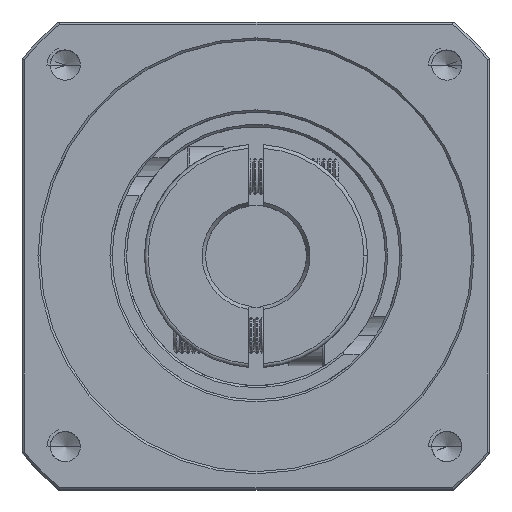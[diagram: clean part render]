
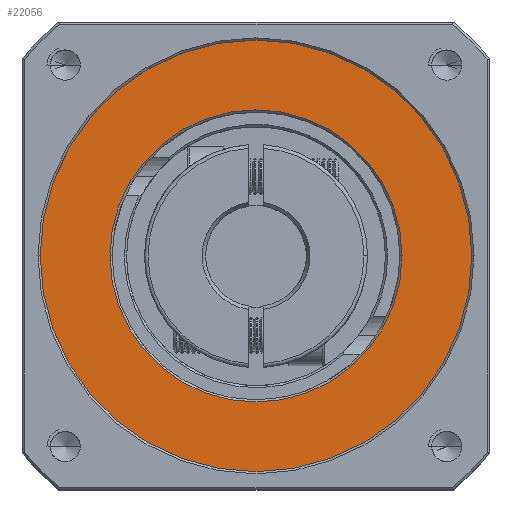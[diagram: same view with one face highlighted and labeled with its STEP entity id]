
A CAD part, top view. The second image highlights one B-rep face of the part: STEP entity #22056.
In plain terms, the highlighted planar face has unit normal (0, 0, 1).
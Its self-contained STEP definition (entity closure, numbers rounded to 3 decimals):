
#2425 = DIRECTION ( 'NONE',  ( 0., 0., 1. ) ) ;
#2940 = ORIENTED_EDGE ( 'NONE', *, *, #26909, .T. ) ;
#11201 = FACE_OUTER_BOUND ( 'NONE', #100078, .T. ) ;
#17317 = DIRECTION ( 'NONE',  ( 0., 0., -1. ) ) ;
#18704 = PLANE ( 'NONE',  #59666 ) ;
#20255 = AXIS2_PLACEMENT_3D ( 'NONE', #30855, #88187, #39108 ) ;
#21926 = CARTESIAN_POINT ( 'NONE',  ( -64.661, 33.999, 21.993 ) ) ;
#22056 = ADVANCED_FACE ( 'NONE', ( #93520, #11201 ), #18704, .T. ) ;
#22060 = VERTEX_POINT ( 'NONE', #51480 ) ;
#23340 = CIRCLE ( 'NONE', #63052, 30. ) ;
#26909 = EDGE_CURVE ( 'NONE', #99417, #27796, #75511, .T. ) ;
#27796 = VERTEX_POINT ( 'NONE', #63081 ) ;
#30283 = DIRECTION ( 'NONE',  ( 1., 0., 0. ) ) ;
#30855 = CARTESIAN_POINT ( 'NONE',  ( -64.661, 33.999, 21.993 ) ) ;
#36238 = CARTESIAN_POINT ( 'NONE',  ( -44.361, 33.999, 21.993 ) ) ;
#39108 = DIRECTION ( 'NONE',  ( 1., 0., 0. ) ) ;
#40092 = CIRCLE ( 'NONE', #48338, 20.3 ) ;
#41582 = EDGE_LOOP ( 'NONE', ( #50528, #85333 ) ) ;
#42446 = CARTESIAN_POINT ( 'NONE',  ( -64.661, 33.999, 21.993 ) ) ;
#47898 = CARTESIAN_POINT ( 'NONE',  ( -94.661, 33.999, 21.993 ) ) ;
#48338 = AXIS2_PLACEMENT_3D ( 'NONE', #66680, #17317, #74905 ) ;
#49633 = EDGE_CURVE ( 'NONE', #27796, #99417, #23340, .T. ) ;
#50528 = ORIENTED_EDGE ( 'NONE', *, *, #89421, .T. ) ;
#50672 = DIRECTION ( 'NONE',  ( 1., 0., 0. ) ) ;
#51480 = CARTESIAN_POINT ( 'NONE',  ( -84.961, 33.999, 21.993 ) ) ;
#51587 = AXIS2_PLACEMENT_3D ( 'NONE', #42446, #99764, #50672 ) ;
#51839 = CARTESIAN_POINT ( 'NONE',  ( -64.661, 33.999, 21.993 ) ) ;
#57672 = EDGE_CURVE ( 'NONE', #22060, #82483, #73522, .T. ) ;
#59666 = AXIS2_PLACEMENT_3D ( 'NONE', #51839, #2425, #60070 ) ;
#60070 = DIRECTION ( 'NONE',  ( 1., 0., 0. ) ) ;
#63052 = AXIS2_PLACEMENT_3D ( 'NONE', #21926, #79424, #30283 ) ;
#63081 = CARTESIAN_POINT ( 'NONE',  ( -34.661, 33.999, 21.993 ) ) ;
#66680 = CARTESIAN_POINT ( 'NONE',  ( -64.661, 33.999, 21.993 ) ) ;
#73522 = CIRCLE ( 'NONE', #20255, 20.3 ) ;
#74905 = DIRECTION ( 'NONE',  ( 1., 0., 0. ) ) ;
#75511 = CIRCLE ( 'NONE', #51587, 30. ) ;
#79424 = DIRECTION ( 'NONE',  ( 0., 0., 1. ) ) ;
#82483 = VERTEX_POINT ( 'NONE', #36238 ) ;
#85333 = ORIENTED_EDGE ( 'NONE', *, *, #57672, .T. ) ;
#88187 = DIRECTION ( 'NONE',  ( 0., 0., -1. ) ) ;
#89421 = EDGE_CURVE ( 'NONE', #82483, #22060, #40092, .T. ) ;
#93520 = FACE_BOUND ( 'NONE', #41582, .T. ) ;
#99417 = VERTEX_POINT ( 'NONE', #47898 ) ;
#99764 = DIRECTION ( 'NONE',  ( 0., 0., 1. ) ) ;
#100078 = EDGE_LOOP ( 'NONE', ( #100513, #2940 ) ) ;
#100513 = ORIENTED_EDGE ( 'NONE', *, *, #49633, .T. ) ;
